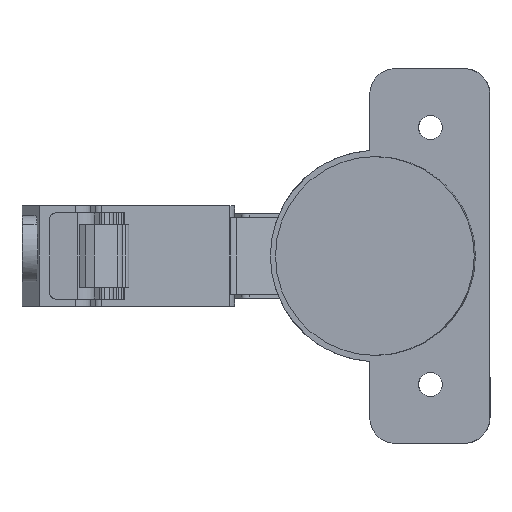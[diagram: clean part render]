
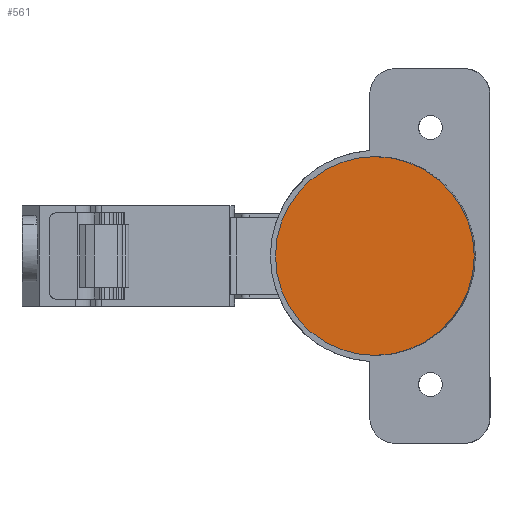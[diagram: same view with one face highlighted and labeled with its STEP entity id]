
A CAD part, left-side view. The second image highlights one B-rep face of the part: STEP entity #561.
In plain terms, the highlighted planar face has unit normal (-1, 0.018, 0).
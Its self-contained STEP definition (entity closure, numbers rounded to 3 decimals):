
#29 = PLANE ( 'NONE',  #3783 ) ;
#126 = CARTESIAN_POINT ( 'NONE',  ( 0.203, -58.137, 0. ) ) ;
#269 = EDGE_CURVE ( 'NONE', #2150, #3602, #3610, .T. ) ;
#561 = ADVANCED_FACE ( 'NONE', ( #1299 ), #29, .T. ) ;
#627 = DIRECTION ( 'NONE',  ( -0.018, -1., 0. ) ) ;
#801 = CARTESIAN_POINT ( 'NONE',  ( 0.203, -58.137, -17.4 ) ) ;
#992 = CARTESIAN_POINT ( 'NONE',  ( 0.203, -58.137, 0. ) ) ;
#1299 = FACE_OUTER_BOUND ( 'NONE', #4460, .T. ) ;
#1671 = CARTESIAN_POINT ( 'NONE',  ( 0.203, -58.137, 17.4 ) ) ;
#1805 = DIRECTION ( 'NONE',  ( 0., 0., -1. ) ) ;
#2150 = VERTEX_POINT ( 'NONE', #801 ) ;
#2990 = ORIENTED_EDGE ( 'NONE', *, *, #3955, .T. ) ;
#3057 = DIRECTION ( 'NONE',  ( -1., 0.018, 0. ) ) ;
#3159 = DIRECTION ( 'NONE',  ( -1., 0.018, 0. ) ) ;
#3530 = DIRECTION ( 'NONE',  ( -0.018, -1., 0. ) ) ;
#3602 = VERTEX_POINT ( 'NONE', #1671 ) ;
#3610 = CIRCLE ( 'NONE', #3702, 17.4 ) ;
#3702 = AXIS2_PLACEMENT_3D ( 'NONE', #992, #5297, #3530 ) ;
#3783 = AXIS2_PLACEMENT_3D ( 'NONE', #4403, #3057, #1805 ) ;
#3955 = EDGE_CURVE ( 'NONE', #3602, #2150, #5099, .T. ) ;
#4403 = CARTESIAN_POINT ( 'NONE',  ( 0.254, -55.326, -8.95 ) ) ;
#4460 = EDGE_LOOP ( 'NONE', ( #2990, #4515 ) ) ;
#4515 = ORIENTED_EDGE ( 'NONE', *, *, #269, .T. ) ;
#4997 = AXIS2_PLACEMENT_3D ( 'NONE', #126, #3159, #627 ) ;
#5099 = CIRCLE ( 'NONE', #4997, 17.4 ) ;
#5297 = DIRECTION ( 'NONE',  ( -1., 0.018, 0. ) ) ;
